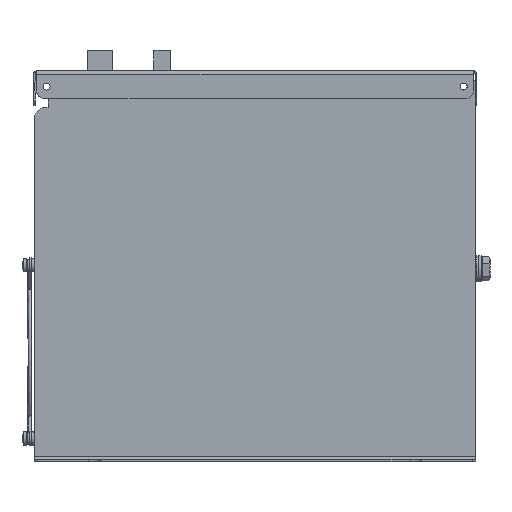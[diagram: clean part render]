
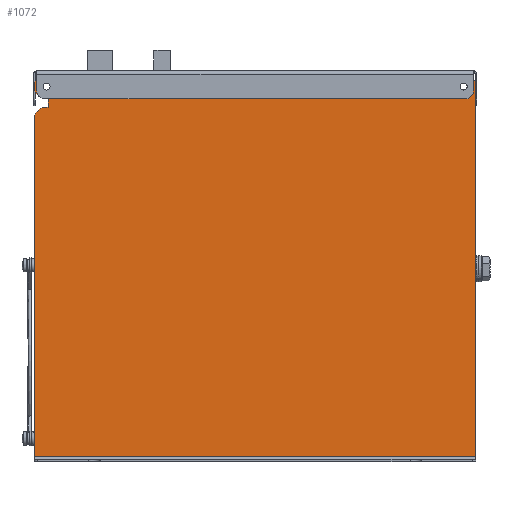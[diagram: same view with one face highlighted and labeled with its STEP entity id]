
A CAD part, left-side view. The second image highlights one B-rep face of the part: STEP entity #1072.
In plain terms, the highlighted planar face has unit normal (-1, 0, 0).
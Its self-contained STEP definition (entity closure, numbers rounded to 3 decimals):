
#1072=ADVANCED_FACE('',(#29011,#29013,#29015),#29017,.F.);
#29011=FACE_BOUND('',#29012,.T.);
#29012=EDGE_LOOP('',(#63251,#63252,#63253,#63254,#63255,#63256,#63257,#63258,#63259,
#63260));
#29013=FACE_BOUND('',#29014,.T.);
#29014=EDGE_LOOP('',(#63261));
#29015=FACE_BOUND('',#29016,.T.);
#29016=EDGE_LOOP('',(#63262));
#29017=PLANE('',#29018);
#29018=AXIS2_PLACEMENT_3D('',#29019,#29020,#29021);
#29019=CARTESIAN_POINT('',(-59.852,12.642,60.711));
#29020=DIRECTION('',(1.,0.,0.));
#29021=DIRECTION('',(0.,1.,0.));
#63251=ORIENTED_EDGE('',*,*,#88455,.T.);
#63252=ORIENTED_EDGE('',*,*,#88456,.F.);
#63253=ORIENTED_EDGE('',*,*,#88457,.F.);
#63254=ORIENTED_EDGE('',*,*,#88458,.F.);
#63255=ORIENTED_EDGE('',*,*,#88459,.F.);
#63256=ORIENTED_EDGE('',*,*,#88460,.T.);
#63257=ORIENTED_EDGE('',*,*,#88461,.T.);
#63258=ORIENTED_EDGE('',*,*,#88462,.T.);
#63259=ORIENTED_EDGE('',*,*,#88463,.F.);
#63260=ORIENTED_EDGE('',*,*,#87872,.F.);
#63261=ORIENTED_EDGE('',*,*,#88464,.T.);
#63262=ORIENTED_EDGE('',*,*,#88465,.T.);
#87872=EDGE_CURVE('',#98551,#98553,#98554,.T.);
#88455=EDGE_CURVE('',#98551,#99561,#99562,.T.);
#88456=EDGE_CURVE('',#99563,#99561,#99564,.T.);
#88457=EDGE_CURVE('',#99565,#99563,#99566,.F.);
#88458=EDGE_CURVE('',#99567,#99565,#99568,.T.);
#88459=EDGE_CURVE('',#99569,#99567,#99570,.F.);
#88460=EDGE_CURVE('',#99569,#99571,#99572,.T.);
#88461=EDGE_CURVE('',#99571,#99573,#99574,.T.);
#88462=EDGE_CURVE('',#99573,#99575,#99576,.T.);
#88463=EDGE_CURVE('',#98553,#99575,#99577,.F.);
#88464=EDGE_CURVE('',#99578,#99578,#99579,.T.);
#88465=EDGE_CURVE('',#99580,#99580,#99581,.T.);
#98551=VERTEX_POINT('',#116459);
#98553=VERTEX_POINT('',#116463);
#98554=LINE('',#116464,#116465);
#99561=VERTEX_POINT('',#125466);
#99562=LINE('',#125467,#125468);
#99563=VERTEX_POINT('',#125470);
#99564=LINE('',#125471,#125472);
#99565=VERTEX_POINT('',#125474);
#99566=CIRCLE('',#125475,7.5);
#99567=VERTEX_POINT('',#125479);
#99568=LINE('',#125480,#125481);
#99569=VERTEX_POINT('',#125483);
#99570=CIRCLE('',#125484,7.5);
#99571=VERTEX_POINT('',#125488);
#99572=LINE('',#125489,#125490);
#99573=VERTEX_POINT('',#125492);
#99574=LINE('',#125493,#125494);
#99575=VERTEX_POINT('',#125496);
#99576=LINE('',#125497,#125498);
#99577=CIRCLE('',#125500,7.5);
#99578=VERTEX_POINT('',#125504);
#99579=CIRCLE('',#125505,3.05);
#99580=VERTEX_POINT('',#125509);
#99581=CIRCLE('',#125510,3.05);
#116459=CARTESIAN_POINT('',(-59.852,146.642,-53.789));
#116463=CARTESIAN_POINT('',(-59.852,146.642,150.711));
#116464=CARTESIAN_POINT('',(-59.852,146.642,-53.789));
#116465=VECTOR('',#116466,1.);
#116466=DIRECTION('',(0.,0.,1.));
#125466=CARTESIAN_POINT('',(-59.852,-121.358,-53.789));
#125467=CARTESIAN_POINT('',(-59.852,146.642,-53.789));
#125468=VECTOR('',#125469,1.);
#125469=DIRECTION('',(0.,-1.,0.));
#125470=CARTESIAN_POINT('',(-59.852,-121.358,170.711));
#125471=CARTESIAN_POINT('',(-59.852,-121.358,170.711));
#125472=VECTOR('',#125473,1.);
#125473=DIRECTION('',(0.,0.,-1.));
#125474=CARTESIAN_POINT('',(-59.852,-113.858,178.211));
#125475=AXIS2_PLACEMENT_3D('',#125476,#125477,#125478);
#125476=CARTESIAN_POINT('',(-59.852,-113.858,170.711));
#125477=DIRECTION('',(-1.,0.,0.));
#125478=DIRECTION('',(0.,-1.,0.));
#125479=CARTESIAN_POINT('',(-59.852,139.142,178.211));
#125480=CARTESIAN_POINT('',(-59.852,139.142,178.211));
#125481=VECTOR('',#125482,1.);
#125482=DIRECTION('',(0.,-1.,0.));
#125483=CARTESIAN_POINT('',(-59.852,139.142,163.211));
#125484=AXIS2_PLACEMENT_3D('',#125485,#125486,#125487);
#125485=CARTESIAN_POINT('',(-59.852,139.142,170.711));
#125486=DIRECTION('',(-1.,0.,0.));
#125487=DIRECTION('',(0.,0.,1.));
#125488=CARTESIAN_POINT('',(-59.852,138.142,163.211));
#125489=CARTESIAN_POINT('',(-59.852,139.142,163.211));
#125490=VECTOR('',#125491,1.);
#125491=DIRECTION('',(0.,-1.,0.));
#125492=CARTESIAN_POINT('',(-59.852,138.142,158.211));
#125493=CARTESIAN_POINT('',(-59.852,138.142,163.211));
#125494=VECTOR('',#125495,1.);
#125495=DIRECTION('',(0.,0.,-1.));
#125496=CARTESIAN_POINT('',(-59.852,139.142,158.211));
#125497=CARTESIAN_POINT('',(-59.852,138.142,158.211));
#125498=VECTOR('',#125499,1.);
#125499=DIRECTION('',(0.,1.,0.));
#125500=AXIS2_PLACEMENT_3D('',#125501,#125502,#125503);
#125501=CARTESIAN_POINT('',(-59.852,139.142,150.711));
#125502=DIRECTION('',(-1.,0.,0.));
#125503=DIRECTION('',(0.,0.,1.));
#125504=CARTESIAN_POINT('',(-59.852,142.192,170.711));
#125505=AXIS2_PLACEMENT_3D('',#125506,#125507,#125508);
#125506=CARTESIAN_POINT('',(-59.852,139.142,170.711));
#125507=DIRECTION('',(1.,0.,0.));
#125508=DIRECTION('',(0.,1.,0.));
#125509=CARTESIAN_POINT('',(-59.852,-110.808,170.711));
#125510=AXIS2_PLACEMENT_3D('',#125511,#125512,#125513);
#125511=CARTESIAN_POINT('',(-59.852,-113.858,170.711));
#125512=DIRECTION('',(1.,0.,0.));
#125513=DIRECTION('',(0.,1.,0.));
